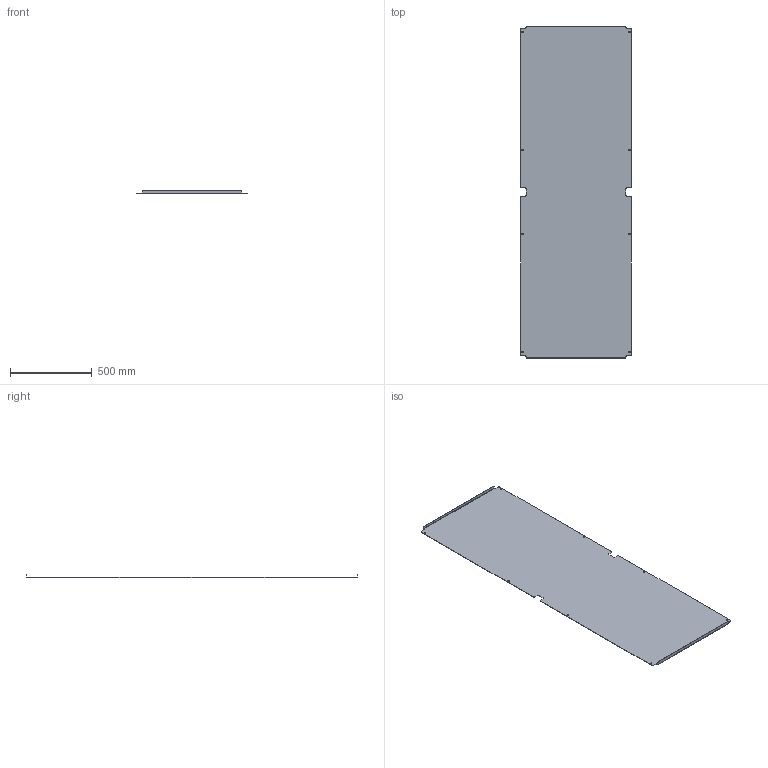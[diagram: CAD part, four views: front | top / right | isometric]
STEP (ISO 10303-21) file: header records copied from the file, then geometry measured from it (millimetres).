
FILE_DESCRIPTION (( 'STEP AP203' ), '1' );
FILE_NAME ('0800x2200_piastra supplementare_EUPS_Enux.STEP', '2015-03-03T14:46:32', ( 'Admin' ), ( '' ), 'SwSTEP 2.0', 'SolidWorks 2014', '' );
FILE_SCHEMA (( 'CONFIG_CONTROL_DESIGN' ));
Length unit declared in the file: millimetre
Products named in the file (1): 0800x2200_piastra supplementare_EUPS_Enux
Bounding box: 680 x 2035 x 20 mm (x, y, z)
Volume: 3496412.1 mm3; surface area: 2811256.5 mm2
Topology: 1 solids, 1 shells, 90 faces, 264 edges, 176 vertices
Faces by surface type: cylinder 48, plane 42
Entity records: 3133 total; most frequent: DIRECTION 542, CARTESIAN_POINT 531, ORIENTED_EDGE 528, EDGE_CURVE 264, AXIS2_PLACEMENT_3D 187, VERTEX_POINT 176, LINE 168, VECTOR 168
